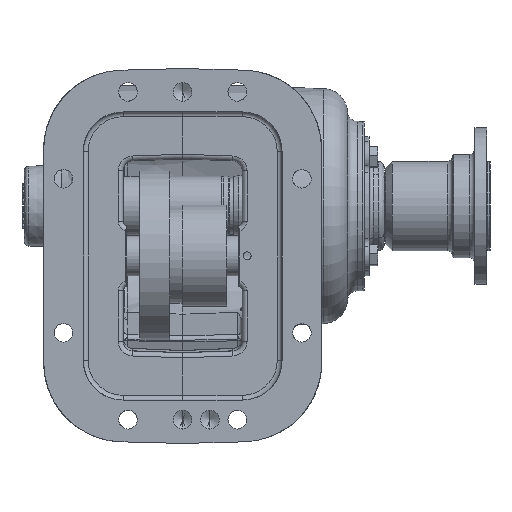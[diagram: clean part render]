
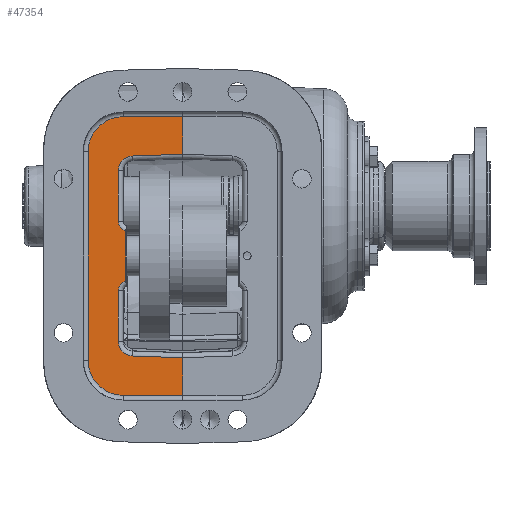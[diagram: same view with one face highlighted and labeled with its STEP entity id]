
A CAD part, front view. The second image highlights one B-rep face of the part: STEP entity #47354.
In plain terms, the highlighted planar face has unit normal (0, -1, 0).
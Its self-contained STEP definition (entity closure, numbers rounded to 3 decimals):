
#12237 = CARTESIAN_POINT ( 'NONE',  ( -65.91, -70.944, 78.158 ) ) ;
#12239 = PLANE ( 'NONE',  #99740 ) ;
#12242 = DIRECTION ( 'NONE',  ( 0., 1., 0. ) ) ;
#12243 = DIRECTION ( 'NONE',  ( 0., 0., 1. ) ) ;
#12499 = AXIS2_PLACEMENT_3D ( 'NONE', #35178, #35179, #35180 ) ;
#12507 = AXIS2_PLACEMENT_3D ( 'NONE', #35210, #35211, #35212 ) ;
#12520 = AXIS2_PLACEMENT_3D ( 'NONE', #35253, #35254, #35255 ) ;
#12527 = AXIS2_PLACEMENT_3D ( 'NONE', #35283, #35284, #35285 ) ;
#12552 = AXIS2_PLACEMENT_3D ( 'NONE', #35741, #35742, #35743 ) ;
#12558 = AXIS2_PLACEMENT_3D ( 'NONE', #35770, #35771, #35772 ) ;
#21333 = LINE ( 'NONE', #35160, #21336 ) ;
#21336 = VECTOR ( 'NONE', #35157, 1000. ) ;
#21340 = CIRCLE ( 'NONE', #12499, 9.398 ) ;
#35157 = DIRECTION ( 'NONE',  ( -0.999, 0., 0.035 ) ) ;
#35160 = CARTESIAN_POINT ( 'NONE',  ( -9.088, -70.944, -103.222 ) ) ;
#35178 = CARTESIAN_POINT ( 'NONE',  ( -8.76, -70.944, -93.83 ) ) ;
#35179 = DIRECTION ( 'NONE',  ( 0., 1., 0. ) ) ;
#35180 = DIRECTION ( 'NONE',  ( 0., 0., 1. ) ) ;
#35189 = DIRECTION ( 'NONE',  ( 0., 0., 1. ) ) ;
#35191 = CARTESIAN_POINT ( 'NONE',  ( -18.158, -70.944, -61.479 ) ) ;
#35210 = CARTESIAN_POINT ( 'NONE',  ( -12.062, -70.944, -61.479 ) ) ;
#35211 = DIRECTION ( 'NONE',  ( 0., 1., 0. ) ) ;
#35212 = DIRECTION ( 'NONE',  ( 0., 0., 1. ) ) ;
#35223 = DIRECTION ( 'NONE',  ( 0., 0., 1. ) ) ;
#35227 = CARTESIAN_POINT ( 'NONE',  ( -13.332, -70.944, -23.117 ) ) ;
#35253 = CARTESIAN_POINT ( 'NONE',  ( -12.062, -70.944, -17.155 ) ) ;
#35254 = DIRECTION ( 'NONE',  ( 0., 1., 0. ) ) ;
#35255 = DIRECTION ( 'NONE',  ( 0., 0., 1. ) ) ;
#35261 = DIRECTION ( 'NONE',  ( 0., 0., 1. ) ) ;
#35263 = CARTESIAN_POINT ( 'NONE',  ( -18.158, -70.944, 15.197 ) ) ;
#35283 = CARTESIAN_POINT ( 'NONE',  ( -8.76, -70.944, 15.197 ) ) ;
#35284 = DIRECTION ( 'NONE',  ( 0., 1., 0. ) ) ;
#35285 = DIRECTION ( 'NONE',  ( 0., 0., 1. ) ) ;
#35294 = CARTESIAN_POINT ( 'NONE',  ( 22.884, -70.944, 25.706 ) ) ;
#35300 = DIRECTION ( 'NONE',  ( 0.999, 0., 0.035 ) ) ;
#35740 = DIRECTION ( 'NONE',  ( 1., 0., 0. ) ) ;
#35741 = CARTESIAN_POINT ( 'NONE',  ( -15.11, -70.944, -105.992 ) ) ;
#35742 = DIRECTION ( 'NONE',  ( 0., -1., 0. ) ) ;
#35743 = DIRECTION ( 'NONE',  ( 0., 0., 1. ) ) ;
#35744 = CARTESIAN_POINT ( 'NONE',  ( 22.99, -70.944, -128.344 ) ) ;
#35751 = CARTESIAN_POINT ( 'NONE',  ( -37.462, -70.944, -105.992 ) ) ;
#35757 = DIRECTION ( 'NONE',  ( 0., 0., -1. ) ) ;
#35770 = CARTESIAN_POINT ( 'NONE',  ( -15.11, -70.944, 27.358 ) ) ;
#35771 = DIRECTION ( 'NONE',  ( 0., -1., 0. ) ) ;
#35772 = DIRECTION ( 'NONE',  ( 0., 0., 1. ) ) ;
#35783 = CARTESIAN_POINT ( 'NONE',  ( -15.11, -70.944, 49.71 ) ) ;
#35789 = DIRECTION ( 'NONE',  ( -1., 0., 0. ) ) ;
#36061 = LINE ( 'NONE', #35191, #36063 ) ;
#36063 = VECTOR ( 'NONE', #35189, 1000. ) ;
#36074 = CIRCLE ( 'NONE', #12507, 6.096 ) ;
#36091 = LINE ( 'NONE', #35227, #36098 ) ;
#36098 = VECTOR ( 'NONE', #35223, 1000. ) ;
#36107 = CIRCLE ( 'NONE', #12520, 6.096 ) ;
#36120 = LINE ( 'NONE', #35263, #36133 ) ;
#36133 = VECTOR ( 'NONE', #35261, 1000. ) ;
#36141 = CIRCLE ( 'NONE', #12527, 9.398 ) ;
#36155 = LINE ( 'NONE', #35294, #36168 ) ;
#36168 = VECTOR ( 'NONE', #35300, 1000. ) ;
#36265 = LINE ( 'NONE', #35744, #36276 ) ;
#36267 = CIRCLE ( 'NONE', #12552, 22.352 ) ;
#36276 = VECTOR ( 'NONE', #35740, 1000. ) ;
#36283 = LINE ( 'NONE', #35751, #36291 ) ;
#36291 = VECTOR ( 'NONE', #35757, 1000. ) ;
#36304 = CIRCLE ( 'NONE', #12558, 22.352 ) ;
#36317 = LINE ( 'NONE', #35783, #36326 ) ;
#36326 = VECTOR ( 'NONE', #35789, 1000. ) ;
#37834 = LINE ( 'NONE', #57456, #37840 ) ;
#37837 = LINE ( 'NONE', #57462, #37843 ) ;
#37840 = VECTOR ( 'NONE', #57460, 1000. ) ;
#37843 = VECTOR ( 'NONE', #57466, 1000. ) ;
#47354 = ADVANCED_FACE ( 'NONE', ( #104136 ), #12239, .F. ) ;
#52355 = CARTESIAN_POINT ( 'NONE',  ( -9.088, -70.944, -103.222 ) ) ;
#52438 = CARTESIAN_POINT ( 'NONE',  ( -18.158, -70.944, -93.83 ) ) ;
#52462 = CARTESIAN_POINT ( 'NONE',  ( -18.158, -70.944, -61.479 ) ) ;
#52464 = CARTESIAN_POINT ( 'NONE',  ( 22.99, -70.944, -104.342 ) ) ;
#52537 = CARTESIAN_POINT ( 'NONE',  ( -13.332, -70.944, -55.516 ) ) ;
#52601 = CARTESIAN_POINT ( 'NONE',  ( -13.332, -70.944, -23.117 ) ) ;
#52640 = CARTESIAN_POINT ( 'NONE',  ( -18.158, -70.944, 15.197 ) ) ;
#52691 = CARTESIAN_POINT ( 'NONE',  ( -18.158, -70.944, -17.155 ) ) ;
#52699 = CARTESIAN_POINT ( 'NONE',  ( -9.088, -70.944, 24.589 ) ) ;
#52839 = CARTESIAN_POINT ( 'NONE',  ( 22.99, -70.944, 25.709 ) ) ;
#53088 = CARTESIAN_POINT ( 'NONE',  ( -37.462, -70.944, -105.992 ) ) ;
#53094 = CARTESIAN_POINT ( 'NONE',  ( 22.99, -70.944, -128.344 ) ) ;
#53106 = CARTESIAN_POINT ( 'NONE',  ( -15.11, -70.944, -128.344 ) ) ;
#53121 = CARTESIAN_POINT ( 'NONE',  ( -37.462, -70.944, 27.358 ) ) ;
#53146 = CARTESIAN_POINT ( 'NONE',  ( -15.11, -70.944, 49.71 ) ) ;
#53177 = CARTESIAN_POINT ( 'NONE',  ( 22.99, -70.944, 49.71 ) ) ;
#57456 = CARTESIAN_POINT ( 'NONE',  ( 22.99, -70.944, 78.158 ) ) ;
#57460 = DIRECTION ( 'NONE',  ( 0., 0., -1. ) ) ;
#57462 = CARTESIAN_POINT ( 'NONE',  ( 22.99, -70.944, 78.158 ) ) ;
#57466 = DIRECTION ( 'NONE',  ( 0., 0., -1. ) ) ;
#74607 = EDGE_CURVE ( 'NONE', #77292, #77288, #21333, .T. ) ;
#74619 = EDGE_CURVE ( 'NONE', #77288, #77293, #21340, .T. ) ;
#74630 = EDGE_CURVE ( 'NONE', #77293, #77295, #36061, .T. ) ;
#74642 = EDGE_CURVE ( 'NONE', #77295, #77310, #36074, .T. ) ;
#74657 = EDGE_CURVE ( 'NONE', #77310, #77316, #36091, .T. ) ;
#74674 = EDGE_CURVE ( 'NONE', #77316, #77326, #36107, .T. ) ;
#74686 = EDGE_CURVE ( 'NONE', #77326, #77321, #36120, .T. ) ;
#74697 = EDGE_CURVE ( 'NONE', #77321, #77328, #36141, .T. ) ;
#74710 = EDGE_CURVE ( 'NONE', #77328, #77343, #36155, .T. ) ;
#74834 = EDGE_CURVE ( 'NONE', #77388, #77394, #36267, .T. ) ;
#74839 = EDGE_CURVE ( 'NONE', #77394, #77390, #36265, .T. ) ;
#74845 = EDGE_CURVE ( 'NONE', #77399, #77388, #36283, .T. ) ;
#74856 = EDGE_CURVE ( 'NONE', #77407, #77399, #36304, .T. ) ;
#74865 = EDGE_CURVE ( 'NONE', #77414, #77407, #36317, .T. ) ;
#77288 = VERTEX_POINT ( 'NONE', #52355 ) ;
#77292 = VERTEX_POINT ( 'NONE', #52464 ) ;
#77293 = VERTEX_POINT ( 'NONE', #52438 ) ;
#77295 = VERTEX_POINT ( 'NONE', #52462 ) ;
#77310 = VERTEX_POINT ( 'NONE', #52537 ) ;
#77316 = VERTEX_POINT ( 'NONE', #52601 ) ;
#77321 = VERTEX_POINT ( 'NONE', #52640 ) ;
#77326 = VERTEX_POINT ( 'NONE', #52691 ) ;
#77328 = VERTEX_POINT ( 'NONE', #52699 ) ;
#77343 = VERTEX_POINT ( 'NONE', #52839 ) ;
#77388 = VERTEX_POINT ( 'NONE', #53088 ) ;
#77390 = VERTEX_POINT ( 'NONE', #53094 ) ;
#77394 = VERTEX_POINT ( 'NONE', #53106 ) ;
#77399 = VERTEX_POINT ( 'NONE', #53121 ) ;
#77407 = VERTEX_POINT ( 'NONE', #53146 ) ;
#77414 = VERTEX_POINT ( 'NONE', #53177 ) ;
#77575 = EDGE_CURVE ( 'NONE', #77292, #77390, #37834, .T. ) ;
#77577 = EDGE_CURVE ( 'NONE', #77414, #77343, #37837, .T. ) ;
#82281 = EDGE_LOOP ( 'NONE', ( #86285, #86286, #86287, #86288, #86289, #86290, #86292, #86293, #86295, #86297, #86298, #86300, #86302, #86303, #86305, #86306 ) ) ;
#86285 = ORIENTED_EDGE ( 'NONE', *, *, #77575, .F. ) ;
#86286 = ORIENTED_EDGE ( 'NONE', *, *, #74607, .T. ) ;
#86287 = ORIENTED_EDGE ( 'NONE', *, *, #74619, .T. ) ;
#86288 = ORIENTED_EDGE ( 'NONE', *, *, #74630, .T. ) ;
#86289 = ORIENTED_EDGE ( 'NONE', *, *, #74642, .T. ) ;
#86290 = ORIENTED_EDGE ( 'NONE', *, *, #74657, .T. ) ;
#86292 = ORIENTED_EDGE ( 'NONE', *, *, #74674, .T. ) ;
#86293 = ORIENTED_EDGE ( 'NONE', *, *, #74686, .T. ) ;
#86295 = ORIENTED_EDGE ( 'NONE', *, *, #74697, .T. ) ;
#86297 = ORIENTED_EDGE ( 'NONE', *, *, #74710, .T. ) ;
#86298 = ORIENTED_EDGE ( 'NONE', *, *, #77577, .F. ) ;
#86300 = ORIENTED_EDGE ( 'NONE', *, *, #74865, .T. ) ;
#86302 = ORIENTED_EDGE ( 'NONE', *, *, #74856, .T. ) ;
#86303 = ORIENTED_EDGE ( 'NONE', *, *, #74845, .T. ) ;
#86305 = ORIENTED_EDGE ( 'NONE', *, *, #74834, .T. ) ;
#86306 = ORIENTED_EDGE ( 'NONE', *, *, #74839, .T. ) ;
#99740 = AXIS2_PLACEMENT_3D ( 'NONE', #12237, #12242, #12243 ) ;
#104136 = FACE_OUTER_BOUND ( 'NONE', #82281, .T. ) ;
